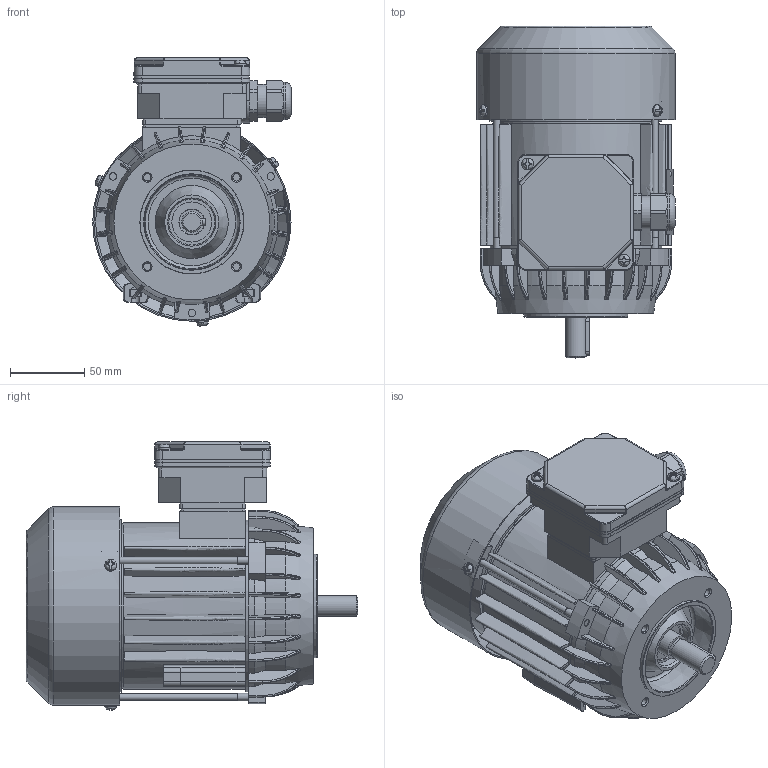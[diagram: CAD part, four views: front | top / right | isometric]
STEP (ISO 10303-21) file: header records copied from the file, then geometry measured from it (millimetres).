
FILE_DESCRIPTION( ( 'Unknown' ), '1' );
FILE_NAME( 'G:/Poczta Tk-1/STP/w.m.71/Sh71/SKh71-.A2.stp', 'Unknown', ( 'K. Szlosek' ), ( 'BESEL S.A.' ), 'PSStep 17.0.49', 'Unknown', ' ' );
FILE_SCHEMA( ( 'AUTOMOTIVE_DESIGN { 1 0 10303 214 1 1 1 1 }' ) );
Length unit declared in the file: millimetre
Products named in the file (29): skrznka zaciskowa trójfazowa ; K4-2820 Uszczelka nr 2 Sh71,80; Dławnica M20x1,5; K2-0859 Podstawa skrzynki 6-cio zaciskowej; K2-0860 Pokrywka skrzynki zaciskowej; Assem1; K3-5958 Tarcza łożyskowa P Sh71 (dla dł. A); Wpust A5x5x25; Wkręt samogwintujący M4x8; Wkręt samogwintujący M4x16; K1-1194 Kadłub z zamkami Sh71-.B; K4-4122 Osłona przewietrznika Sh71-.A; K3-3984 Przewietrznik Sh71; K4-2320 Uszczelka nr 1 Sh71,80; K3-6688 Wał Standard Sh71-A; Nitokołek A 2x6; Łożysko 6203; Śruba ściągająca E_M5x110; Tabliczka znamionowa 32x44; K1-1245 Tarcza kołnierzowa B14_2 w.m. 71
Assembly tree (44 placements, depth 3):
  Assem1
    K3-5958 Tarcza łożyskowa P Sh71 (dla dł. A)
    Wpust A5x5x25
    Wkręt samogwintujący M4x8  x3
    Wkręt samogwintujący M4x16  x2
    K1-1194 Kadłub z zamkami Sh71-.B
    K4-4122 Osłona przewietrznika Sh71-.A
    K3-3984 Przewietrznik Sh71
    K4-2320 Uszczelka nr 1 Sh71,80
    K3-6688 Wał Standard Sh71-A
    Nitokołek A 2x6  x2
    Łożysko 6203  x2
    Łożysko 6203  x2
    Łożysko 6203  x2
    Łożysko 6203  x2
    Łożysko 6203  x2
    Łożysko 6203  x2
    Łożysko 6203  x2
    Łożysko 6203  x2
    Łożysko 6203  x2
    Łożysko 6203  x2
    Śruba ściągająca E_M5x110  x3
    Tabliczka znamionowa 32x44
    K1-1245 Tarcza kołnierzowa B14_2 w.m. 71
    skrznka zaciskowa trójfazowa 
      K4-2820 Uszczelka nr 2 Sh71,80
      Dławnica M20x1,5
      K2-0859 Podstawa skrzynki 6-cio zaciskowej
      K2-0860 Pokrywka skrzynki zaciskowej
Bounding box: 133.8 x 223.5 x 180.57 mm (x, y, z)
Volume: 562429.4 mm3; surface area: 393091.4 mm2
Topology: 43 solids, 59 shells, 1980 faces, 5525 edges, 3632 vertices
Faces by surface type: plane 913, cylinder 636, bspline 146, cone 142, torus 109, sphere 34
Full cylindrical faces by diameter (mm): 2 x2, 2.4 x2, 3.7 x7, 3.8 x4, 4 x5, 4.5 x1, 4.6 x3, 4.8 x4, 4.917 x4, 5 x10, 5.5 x3, 7 x1, 8 x9, 13.6 x1, 14 x1, 15.9 x1, 16.1 x1, 16.5 x1, 16.6 x2, 17 x4, 17.4 x2, 18.376 x1, 18.38 x1, 20 x1, 22 x2, 22.3 x1, 22.5 x1, 22.7 x1, 23 x2, 23.1 x1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
Entity records: 90816 total; most frequent: CARTESIAN_POINT 35697, ORIENTED_EDGE 9638, DIRECTION 9039, EDGE_CURVE 4819, AXIS2_PLACEMENT_3D 3377, VERTEX_POINT 3304, LINE 2285, VECTOR 2285
